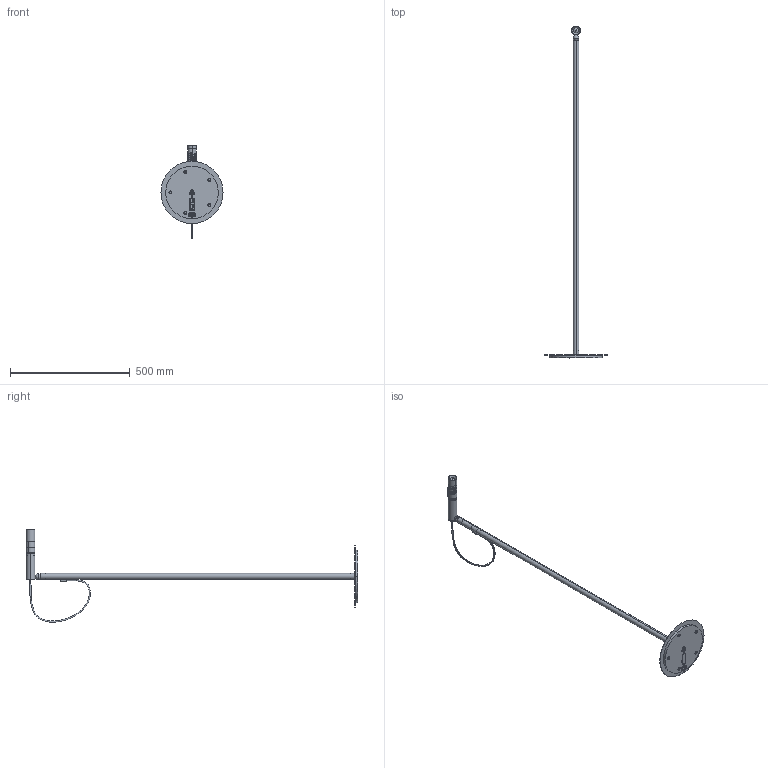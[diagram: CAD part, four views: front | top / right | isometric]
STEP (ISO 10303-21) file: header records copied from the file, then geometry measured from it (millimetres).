
FILE_DESCRIPTION (( 'STEP AP203' ), '1' );
FILE_NAME ('type_assieme.STEP', '2022-05-12T14:22:51', ( '' ), ( '' ), 'SwSTEP 2.0', 'SolidWorks 2016', '' );
FILE_SCHEMA (( 'CONFIG_CONTROL_DESIGN' ));
Length unit declared in the file: millimetre
Products named in the file (30): Sfera_snodo; Zavorra; 005COM000028_VITE AUFI 3X12 NIBI TESTA D=5 ANTIEF; 081COM000300; Cavo; type_assieme; inserto_snodo sferico magnetico; gommino 019COM000275; vite tcei m4x10; lente 24.8_0-far-0023-0-00; 010TYP700500_Tubo zoom; 010TYP701000_Staffetta cover mammut; Zavorra e copribase; As_stelo e inserto; Bussola connettore_dx-sx_dx; vite tspei m4x20; 081COM000044 - 1 POLO - MORSETTIERA NYLON; rondella piatta_snodo; Bussola connettore_dx-sx_sx; inserto base; 010TYP700200_Tappo svasato AVP M10x1.5; Stelo; Copribase; Vite M3x10 TSIC_B18.6.7M - M4 x 0.7 x 8 Type I Cross Recessed FHMS --8N; 010TYP700400_Tubo dimmer; AS_snodo_Sferico_Magnetico; TUBO 10X2_DRITTO; dado M3_; type_assieme testata_zoom massimo; 010TYP700300_tubo coda_versione lettura-sospensione
Assembly tree (39 placements, depth 4):
  type_assieme
    Zavorra e copribase
      Copribase
      Zavorra
    TUBO 10X2_DRITTO
    Cavo
    vite tcei m4x10
    Bussola connettore_dx-sx_dx
    Bussola connettore_dx-sx_sx
    081COM000044 - 1 POLO - MORSETTIERA NYLON  x2
    081COM000300
    dado M3_  x2
    As_stelo e inserto
      Stelo
      inserto base
    005COM000028_VITE AUFI 3X12 NIBI TESTA D=5 ANTIEF  x2
    gommino 019COM000275  x5
    type_assieme testata_zoom massimo
      010TYP700300_tubo coda_versione lettura-sospensione
      010TYP700500_Tubo zoom
      010TYP700400_Tubo dimmer
      lente 24.8_0-far-0023-0-00
      AS_snodo_Sferico_Magnetico
        inserto_snodo sferico magnetico
        Sfera_snodo
        rondella piatta_snodo
      010TYP700200_Tappo svasato AVP M10x1.5
    vite tspei m4x20  x3
    Vite M3x10 TSIC_B18.6.7M - M4 x 0.7 x 8 Type I Cross Recessed FHMS --8N  x2
    010TYP701000_Staffetta cover mammut
Bounding box: 260 x 1388.65 x 386.53 mm (x, y, z)
Volume: 758811.9 mm3; surface area: 472933.2 mm2
Topology: 36 solids, 38 shells, 878 faces, 2135 edges, 1350 vertices
Faces by surface type: plane 399, cylinder 291, cone 93, torus 61, bspline 24, sphere 10
Entity records: 34606 total; most frequent: CARTESIAN_POINT 14086, DIRECTION 3646, ORIENTED_EDGE 3518, EDGE_CURVE 1759, AXIS2_PLACEMENT_3D 1372, VERTEX_POINT 1128, VECTOR 902, LINE 902
